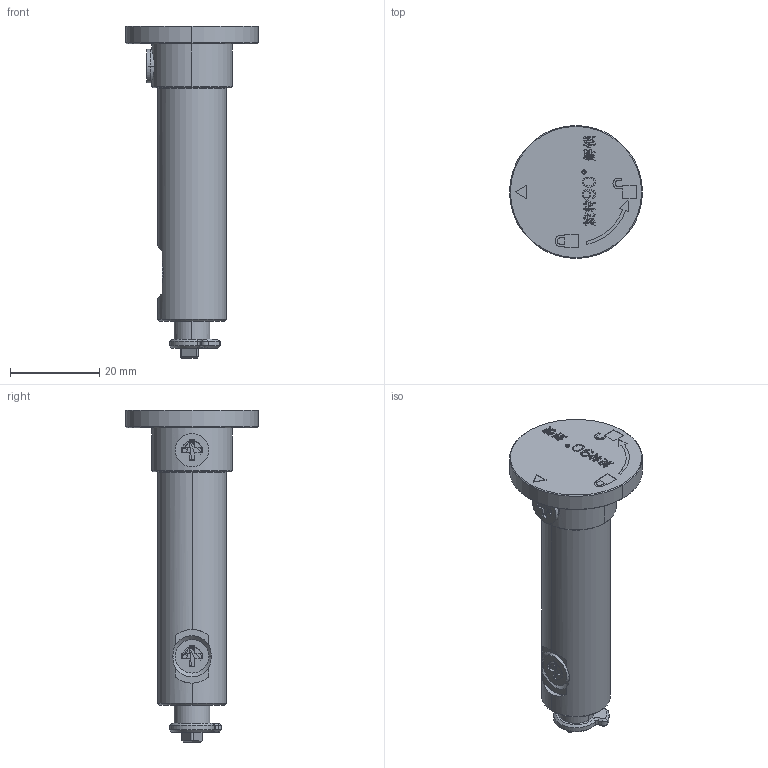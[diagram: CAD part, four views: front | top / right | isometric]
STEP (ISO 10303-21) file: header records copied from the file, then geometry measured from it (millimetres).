
FILE_DESCRIPTION((''),'2;1');
FILE_NAME('EPC0002_ASM','2023-12-11T10:50:55',('13553236702'),(''),'CREO PARAMETRIC BY PTC INC, 2022164','CREO PARAMETRIC BY PTC INC, 2022164','');
FILE_SCHEMA(('CONFIG_CONTROL_DESIGN'));
Length unit declared in the file: millimetre
Products named in the file (6): 0003; EPC0003_ASM; 00; M4; EPC0002_ASM
Assembly tree (6 placements, depth 3):
  EPC0002_ASM
    EPC0003_ASM
      0003
    00
    00
    M4  x2
Bounding box: 29.8 x 29.8 x 74.4 mm (x, y, z)
Volume: 15209.8 mm3; surface area: 8171.2 mm2
Topology: 5 solids, 6 shells, 820 faces, 2337 edges, 1533 vertices
Faces by surface type: plane 654, cylinder 85, bspline 44, cone 37
Entity records: 27616 total; most frequent: CARTESIAN_POINT 8179, ORIENTED_EDGE 4230, DIRECTION 3597, EDGE_CURVE 2117, VECTOR 1875, LINE 1875, VERTEX_POINT 1395, AXIS2_PLACEMENT_3D 861
